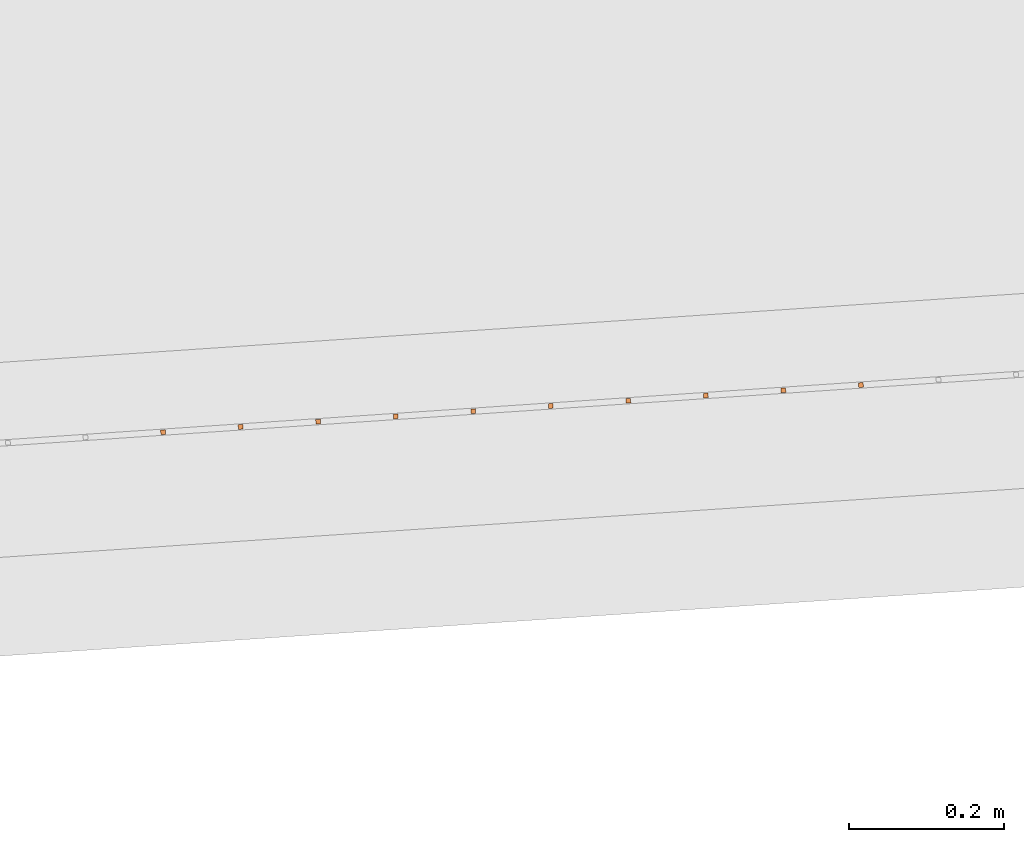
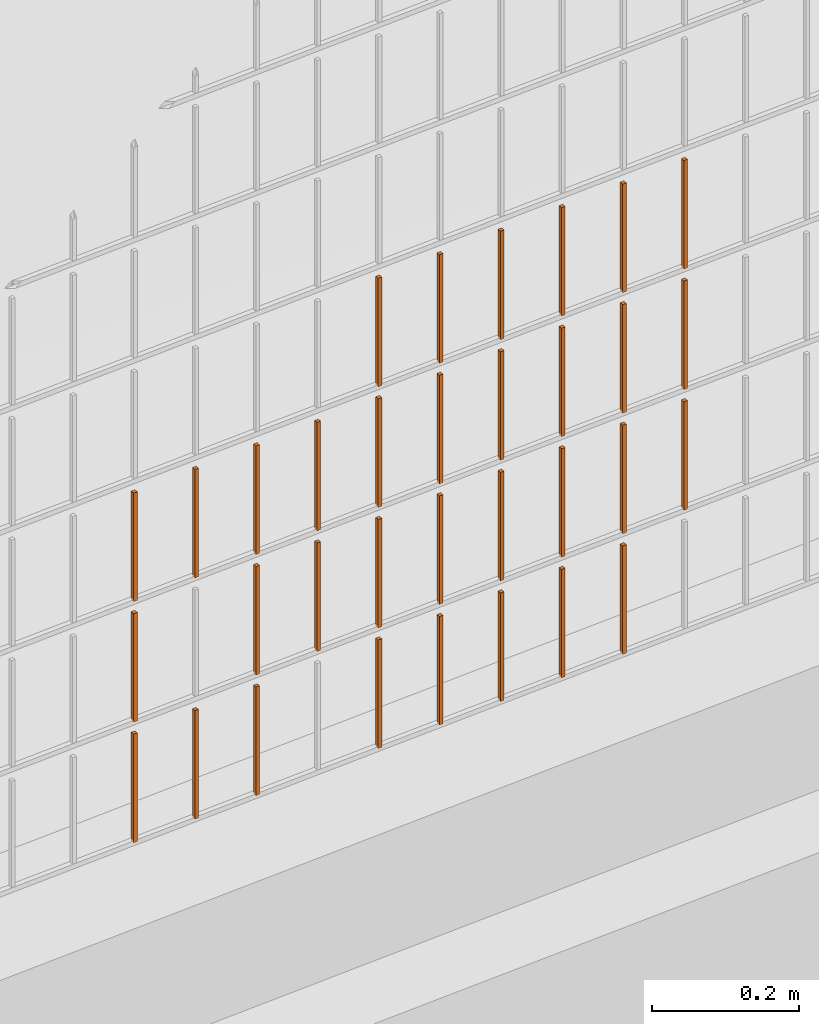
# One storey, part 369 of 1809: 33 proxies, 1 element without a shape of its own.
"""IFC2X3 building model written with IfcOpenShell, lengths in millimetres."""

from ifc_helpers import new_model, entity, si_unit, converted_unit, derived_unit, money_unit, direction, frame, origin_with_axes, place, context, subcontext, project, spatial, faceted_brep, source, transform, mapped, material, type_object, element, aggregate, save


model = new_model("IFC2X3")

# Units and contexts
model_context = context("Model", 3, precision=0.01, world=origin_with_axes(), true_north=direction((0.0, 1.0)))
body_context = subcontext(model_context, "Body", "Model", "MODEL_VIEW")
ifc_project = project(units=[si_unit("LENGTHUNIT", "METRE", prefix="MILLI"), si_unit("AREAUNIT", "SQUARE_METRE"), si_unit("VOLUMEUNIT", "CUBIC_METRE"), converted_unit("PLANEANGLEUNIT", "DEGREE", entity("IfcPlaneAngleMeasure", 0.0174532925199), si_unit("PLANEANGLEUNIT", "RADIAN"), dimensions=[0, 0, 0, 0, 0, 0, 0]), si_unit("SOLIDANGLEUNIT", "STERADIAN"), money_unit("EUR"), converted_unit("TIMEUNIT", "Year", entity("IfcTimeMeasure", 31556926.0), si_unit("TIMEUNIT", "SECOND"), dimensions=[0, 0, 1, 0, 0, 0, 0]), si_unit("MASSUNIT", "GRAM", prefix="KILO"), si_unit("THERMODYNAMICTEMPERATUREUNIT", "DEGREE_CELSIUS"), si_unit("LUMINOUSINTENSITYUNIT", "LUMEN"), si_unit("ENERGYUNIT", "JOULE", prefix="MEGA"), derived_unit("THERMALCONDUCTANCEUNIT", [(si_unit("POWERUNIT", "WATT"), 1), (si_unit("LENGTHUNIT", "METRE"), -1), (si_unit("THERMODYNAMICTEMPERATUREUNIT", "KELVIN"), -1)]), derived_unit("SPECIFICHEATCAPACITYUNIT", [(si_unit("ENERGYUNIT", "JOULE"), 1), (si_unit("MASSUNIT", "GRAM", prefix="KILO"), -1), (si_unit("THERMODYNAMICTEMPERATUREUNIT", "KELVIN"), -1)]), derived_unit("MASSDENSITYUNIT", [(si_unit("MASSUNIT", "GRAM", prefix="KILO"), 1), (si_unit("VOLUMEUNIT", "CUBIC_METRE"), -1)])], contexts=[model_context])

# Site, building, storey
site_placement = place(None, origin_with_axes())
site = spatial("IfcSite", under=ifc_project, at=site_placement, Name="Politse- ja Piirivalveameti ning Päästeameti ühishoone", CompositionType="ELEMENT")
building_placement = place(site_placement, origin_with_axes())
building = spatial("IfcBuilding", under=site, at=building_placement, Name="Politse- ja Piirivalveameti ning Päästeameti ühishoone", CompositionType="ELEMENT")
storey_placement = place(building_placement, origin_with_axes())
storey = spatial("IfcBuildingStorey", under=building, at=storey_placement, Name="Esimene korrus", CompositionType="ELEMENT", Elevation=0.0)

# Proxies
building_element_proxy_type_1 = type_object("IfcBuildingElementProxyType", Name="Railing Type", PredefinedType="NOTDEFINED")
proxy_1_placement = place(storey_placement, frame((89252.001212, -29183.4766571, 203.661247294), z_axis=(0.0, 0.0, 1.0), x_axis=(1.0, 0.0, 0.0)))
proxy_1 = element("IfcBuildingElementProxy", 1, at=proxy_1_placement, inside=storey, type_object=building_element_proxy_type_1, Name="PIIRDEAED")
ifc_material = material(Name="ET-03_Raud")
building_element_proxy_type_2 = type_object("IfcBuildingElementProxyType", Name="IfcBuildingElementProxy", PredefinedType="NOTDEFINED")
shared_shape_1 = source(origin_with_axes(), body_context, "Body", "Brep", [
    faceted_brep([(3.0, 3.0, -0.000752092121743), (-3.0, 3.0, -0.000752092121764), (-3.0, 3.0, 179.99926046), (3.0, 3.0, 179.99926046), (3.0, -3.0, 0.000752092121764), (-3.0, -3.0, 0.000752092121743), (-3.0, -3.0, 180.000764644), (3.0, -3.0, 180.000764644)], [[[0, 1, 2, 3]], [[0, 4, 5, 1]], [[1, 5, 6, 2]], [[3, 2, 6, 7]], [[4, 0, 3, 7]], [[5, 4, 7, 6]]]),
])
proxy_2_placement = place(proxy_1_placement, frame((-20380.2485119, -18674.3836363, 22.1134684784), z_axis=(0.0, 0.0, 1.0), x_axis=(1.0, 0.0, 0.0)))
proxy_2 = element("IfcBuildingElementProxy", 2, at=proxy_2_placement, type_object=building_element_proxy_type_2, material=ifc_material, Name="BALUSTER - 001", context=body_context, shape_type="MappedRepresentation", body=[
    mapped(shared_shape_1, transform((0.0, 0.0, 0.0), x_axis=(-0.0673926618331, 0.997726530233, 0.0), y_axis=(-0.997726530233, -0.0673926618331, 0.0), z_axis=(0.0, 0.0, 1.0))),
])
shared_shape_2 = source(origin_with_axes(), body_context, "Body", "Brep", [
    faceted_brep([(3.0, 3.0, -0.000752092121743), (-3.0, 3.0, -0.000752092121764), (-3.0, 3.0, 179.99926046), (3.0, 3.0, 179.99926046), (3.0, -3.0, 0.000752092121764), (-3.0, -3.0, 0.000752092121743), (-3.0, -3.0, 180.000764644), (3.0, -3.0, 180.000764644)], [[[0, 1, 2, 3]], [[0, 4, 5, 1]], [[1, 5, 6, 2]], [[3, 2, 6, 7]], [[4, 0, 3, 7]], [[5, 4, 7, 6]]]),
])
proxy_3_placement = place(proxy_1_placement, frame((-20380.2485119, -18674.3836363, 222.113468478), z_axis=(0.0, 0.0, 1.0), x_axis=(1.0, 0.0, 0.0)))
proxy_3 = element("IfcBuildingElementProxy", 3, at=proxy_3_placement, type_object=building_element_proxy_type_2, material=ifc_material, Name="BALUSTER - 001", context=body_context, shape_type="MappedRepresentation", body=[
    mapped(shared_shape_2, transform((0.0, 0.0, 0.0), x_axis=(-0.0673926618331, 0.997726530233, 0.0), y_axis=(-0.997726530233, -0.0673926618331, 0.0), z_axis=(0.0, 0.0, 1.0))),
])
shared_shape_3 = source(origin_with_axes(), body_context, "Body", "Brep", [
    faceted_brep([(3.0, 3.0, -0.000752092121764), (-3.0, 3.0, -0.000752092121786), (-3.0, 3.0, 179.99926046), (3.0, 3.0, 179.99926046), (3.0, -3.0, 0.000752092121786), (-3.0, -3.0, 0.000752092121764), (-3.0, -3.0, 180.000764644), (3.0, -3.0, 180.000764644)], [[[0, 1, 2, 3]], [[0, 4, 5, 1]], [[1, 5, 6, 2]], [[3, 2, 6, 7]], [[4, 0, 3, 7]], [[5, 4, 7, 6]]]),
])
proxy_4_placement = place(proxy_1_placement, frame((-20978.8844301, -18714.8192334, 21.9630500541), z_axis=(0.0, 0.0, 1.0), x_axis=(1.0, 0.0, 0.0)))
proxy_4 = element("IfcBuildingElementProxy", 4, at=proxy_4_placement, type_object=building_element_proxy_type_2, material=ifc_material, Name="BALUSTER - 001", context=body_context, shape_type="MappedRepresentation", body=[
    mapped(shared_shape_3, transform((0.0, 0.0, 0.0), x_axis=(-0.0673926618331, 0.997726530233, 0.0), y_axis=(-0.997726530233, -0.0673926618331, 0.0), z_axis=(0.0, 0.0, 1.0))),
])
shared_shape_4 = source(origin_with_axes(), body_context, "Body", "Brep", [
    faceted_brep([(3.0, 3.0, -0.000752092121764), (-3.0, 3.0, -0.000752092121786), (-3.0, 3.0, 179.99926046), (3.0, 3.0, 179.99926046), (3.0, -3.0, 0.000752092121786), (-3.0, -3.0, 0.000752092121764), (-3.0, -3.0, 180.000764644), (3.0, -3.0, 180.000764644)], [[[0, 1, 2, 3]], [[0, 4, 5, 1]], [[1, 5, 6, 2]], [[3, 2, 6, 7]], [[4, 0, 3, 7]], [[5, 4, 7, 6]]]),
])
proxy_5_placement = place(proxy_1_placement, frame((-20879.1117771, -18708.0799672, 21.9881197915), z_axis=(0.0, 0.0, 1.0), x_axis=(1.0, 0.0, 0.0)))
proxy_5 = element("IfcBuildingElementProxy", 5, at=proxy_5_placement, type_object=building_element_proxy_type_2, material=ifc_material, Name="BALUSTER - 001", context=body_context, shape_type="MappedRepresentation", body=[
    mapped(shared_shape_4, transform((0.0, 0.0, 0.0), x_axis=(-0.0673926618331, 0.997726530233, 0.0), y_axis=(-0.997726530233, -0.0673926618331, 0.0), z_axis=(0.0, 0.0, 1.0))),
])
shared_shape_5 = source(origin_with_axes(), body_context, "Body", "Brep", [
    faceted_brep([(3.0, 3.0, -0.000752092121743), (-3.0, 3.0, -0.000752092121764), (-3.0, 3.0, 179.99926046), (3.0, 3.0, 179.99926046), (3.0, -3.0, 0.000752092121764), (-3.0, -3.0, 0.000752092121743), (-3.0, -3.0, 180.000764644), (3.0, -3.0, 180.000764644)], [[[0, 1, 2, 3]], [[0, 4, 5, 1]], [[1, 5, 6, 2]], [[3, 2, 6, 7]], [[4, 0, 3, 7]], [[5, 4, 7, 6]]]),
])
proxy_6_placement = place(proxy_1_placement, frame((-20380.2485119, -18674.3836363, 422.113468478), z_axis=(0.0, 0.0, 1.0), x_axis=(1.0, 0.0, 0.0)))
proxy_6 = element("IfcBuildingElementProxy", 6, at=proxy_6_placement, type_object=building_element_proxy_type_2, material=ifc_material, Name="BALUSTER - 001", context=body_context, shape_type="MappedRepresentation", body=[
    mapped(shared_shape_5, transform((0.0, 0.0, 0.0), x_axis=(-0.0673926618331, 0.997726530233, 0.0), y_axis=(-0.997726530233, -0.0673926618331, 0.0), z_axis=(0.0, 0.0, 1.0))),
])
shared_shape_6 = source(origin_with_axes(), body_context, "Body", "Brep", [
    faceted_brep([(3.0, 3.0, -0.000752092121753), (-3.0, 3.0, -0.000752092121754), (-3.0, 3.0, 179.99926046), (3.0, 3.0, 179.99926046), (3.0, -3.0, 0.000752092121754), (-3.0, -3.0, 0.000752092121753), (-3.0, -3.0, 180.000764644), (3.0, -3.0, 180.000764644)], [[[0, 1, 2, 3]], [[0, 4, 5, 1]], [[1, 5, 6, 2]], [[3, 2, 6, 7]], [[4, 0, 3, 7]], [[5, 4, 7, 6]]]),
])
proxy_7_placement = place(proxy_1_placement, frame((-20180.7032059, -18660.9051039, 222.163607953), z_axis=(0.0, 0.0, 1.0), x_axis=(1.0, 0.0, 0.0)))
proxy_7 = element("IfcBuildingElementProxy", 7, at=proxy_7_placement, type_object=building_element_proxy_type_2, material=ifc_material, Name="BALUSTER - 001", context=body_context, shape_type="MappedRepresentation", body=[
    mapped(shared_shape_6, transform((0.0, 0.0, 0.0), x_axis=(-0.0673926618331, 0.997726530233, 0.0), y_axis=(-0.997726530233, -0.0673926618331, 0.0), z_axis=(0.0, 0.0, 1.0))),
])
proxy_8_placement = place(proxy_1_placement, frame((-20180.7032059, -18660.9051039, 622.163607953), z_axis=(0.0, 0.0, 1.0), x_axis=(1.0, 0.0, 0.0)))
proxy_8 = element("IfcBuildingElementProxy", 8, at=proxy_8_placement, type_object=building_element_proxy_type_2, material=ifc_material, Name="BALUSTER - 001", context=body_context, shape_type="MappedRepresentation", body=[
    mapped(shared_shape_6, transform((0.0, 0.0, 0.0), x_axis=(-0.0673926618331, 0.997726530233, 0.0), y_axis=(-0.997726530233, -0.0673926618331, 0.0), z_axis=(0.0, 0.0, 1.0))),
])
shared_shape_7 = source(origin_with_axes(), body_context, "Body", "Brep", [
    faceted_brep([(3.0, 3.0, -0.000752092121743), (-3.0, 3.0, -0.000752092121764), (-3.0, 3.0, 179.99926046), (3.0, 3.0, 179.99926046), (3.0, -3.0, 0.000752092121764), (-3.0, -3.0, 0.000752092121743), (-3.0, -3.0, 180.000764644), (3.0, -3.0, 180.000764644)], [[[0, 1, 2, 3]], [[0, 4, 5, 1]], [[1, 5, 6, 2]], [[3, 2, 6, 7]], [[4, 0, 3, 7]], [[5, 4, 7, 6]]]),
])
proxy_9_placement = place(proxy_1_placement, frame((-20280.4758589, -18667.6443701, 222.138538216), z_axis=(0.0, 0.0, 1.0), x_axis=(1.0, 0.0, 0.0)))
proxy_9 = element("IfcBuildingElementProxy", 9, at=proxy_9_placement, type_object=building_element_proxy_type_2, material=ifc_material, Name="BALUSTER - 001", context=body_context, shape_type="MappedRepresentation", body=[
    mapped(shared_shape_7, transform((0.0, 0.0, 0.0), x_axis=(-0.0673926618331, 0.997726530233, 0.0), y_axis=(-0.997726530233, -0.0673926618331, 0.0), z_axis=(0.0, 0.0, 1.0))),
])
shared_shape_8 = source(origin_with_axes(), body_context, "Body", "Brep", [
    faceted_brep([(3.0, 3.0, -0.000752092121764), (-3.0, 3.0, -0.000752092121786), (-3.0, 3.0, 179.99926046), (3.0, 3.0, 179.99926046), (3.0, -3.0, 0.000752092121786), (-3.0, -3.0, 0.000752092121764), (-3.0, -3.0, 180.000764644), (3.0, -3.0, 180.000764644)], [[[0, 1, 2, 3]], [[0, 4, 5, 1]], [[1, 5, 6, 2]], [[3, 2, 6, 7]], [[4, 0, 3, 7]], [[5, 4, 7, 6]]]),
])
proxy_10_placement = place(proxy_1_placement, frame((-21078.6570831, -18721.5584996, 421.937980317), z_axis=(0.0, 0.0, 1.0), x_axis=(1.0, 0.0, 0.0)))
proxy_10 = element("IfcBuildingElementProxy", 10, at=proxy_10_placement, type_object=building_element_proxy_type_2, material=ifc_material, Name="BALUSTER - 001", context=body_context, shape_type="MappedRepresentation", body=[
    mapped(shared_shape_8, transform((0.0, 0.0, 0.0), x_axis=(-0.0673926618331, 0.997726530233, 0.0), y_axis=(-0.997726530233, -0.0673926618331, 0.0), z_axis=(0.0, 0.0, 1.0))),
])
shared_shape_9 = source(origin_with_axes(), body_context, "Body", "Brep", [
    faceted_brep([(3.0, 3.0, -0.000752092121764), (-3.0, 3.0, -0.000752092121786), (-3.0, 3.0, 179.99926046), (3.0, 3.0, 179.99926046), (3.0, -3.0, 0.000752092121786), (-3.0, -3.0, 0.000752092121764), (-3.0, -3.0, 180.000764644), (3.0, -3.0, 180.000764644)], [[[0, 1, 2, 3]], [[0, 4, 5, 1]], [[1, 5, 6, 2]], [[3, 2, 6, 7]], [[4, 0, 3, 7]], [[5, 4, 7, 6]]]),
])
proxy_11_placement = place(proxy_1_placement, frame((-20879.1117771, -18708.0799672, 221.988119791), z_axis=(0.0, 0.0, 1.0), x_axis=(1.0, 0.0, 0.0)))
proxy_11 = element("IfcBuildingElementProxy", 11, at=proxy_11_placement, type_object=building_element_proxy_type_2, material=ifc_material, Name="BALUSTER - 001", context=body_context, shape_type="MappedRepresentation", body=[
    mapped(shared_shape_9, transform((0.0, 0.0, 0.0), x_axis=(-0.0673926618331, 0.997726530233, 0.0), y_axis=(-0.997726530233, -0.0673926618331, 0.0), z_axis=(0.0, 0.0, 1.0))),
])
shared_shape_10 = source(origin_with_axes(), body_context, "Body", "Brep", [
    faceted_brep([(3.0, 3.0, -0.000752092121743), (-3.0, 3.0, -0.000752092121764), (-3.0, 3.0, 179.99926046), (3.0, 3.0, 179.99926046), (3.0, -3.0, 0.000752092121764), (-3.0, -3.0, 0.000752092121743), (-3.0, -3.0, 180.000764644), (3.0, -3.0, 180.000764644)], [[[0, 1, 2, 3]], [[0, 4, 5, 1]], [[1, 5, 6, 2]], [[3, 2, 6, 7]], [[4, 0, 3, 7]], [[5, 4, 7, 6]]]),
])
proxy_12_placement = place(proxy_1_placement, frame((-20280.4758589, -18667.6443701, 422.138538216), z_axis=(0.0, 0.0, 1.0), x_axis=(1.0, 0.0, 0.0)))
proxy_12 = element("IfcBuildingElementProxy", 12, at=proxy_12_placement, type_object=building_element_proxy_type_2, material=ifc_material, Name="BALUSTER - 001", context=body_context, shape_type="MappedRepresentation", body=[
    mapped(shared_shape_10, transform((0.0, 0.0, 0.0), x_axis=(-0.0673926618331, 0.997726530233, 0.0), y_axis=(-0.997726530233, -0.0673926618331, 0.0), z_axis=(0.0, 0.0, 1.0))),
])
shared_shape_11 = source(origin_with_axes(), body_context, "Body", "Brep", [
    faceted_brep([(3.0, 3.0, -0.000752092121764), (-3.0, 3.0, -0.000752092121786), (-3.0, 3.0, 179.99926046), (3.0, 3.0, 179.99926046), (3.0, -3.0, 0.000752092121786), (-3.0, -3.0, 0.000752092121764), (-3.0, -3.0, 180.000764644), (3.0, -3.0, 180.000764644)], [[[0, 1, 2, 3]], [[0, 4, 5, 1]], [[1, 5, 6, 2]], [[3, 2, 6, 7]], [[4, 0, 3, 7]], [[5, 4, 7, 6]]]),
])
proxy_13_placement = place(proxy_1_placement, frame((-20879.1117771, -18708.0799672, 421.988119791), z_axis=(0.0, 0.0, 1.0), x_axis=(1.0, 0.0, 0.0)))
proxy_13 = element("IfcBuildingElementProxy", 13, at=proxy_13_placement, type_object=building_element_proxy_type_2, material=ifc_material, Name="BALUSTER - 001", context=body_context, shape_type="MappedRepresentation", body=[
    mapped(shared_shape_11, transform((0.0, 0.0, 0.0), x_axis=(-0.0673926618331, 0.997726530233, 0.0), y_axis=(-0.997726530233, -0.0673926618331, 0.0), z_axis=(0.0, 0.0, 1.0))),
])
shared_shape_12 = source(origin_with_axes(), body_context, "Body", "Brep", [
    faceted_brep([(3.0, 3.0, -0.000752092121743), (-3.0, 3.0, -0.000752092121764), (-3.0, 3.0, 179.99926046), (3.0, 3.0, 179.99926046), (3.0, -3.0, 0.000752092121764), (-3.0, -3.0, 0.000752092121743), (-3.0, -3.0, 180.000764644), (3.0, -3.0, 180.000764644)], [[[0, 1, 2, 3]], [[0, 4, 5, 1]], [[1, 5, 6, 2]], [[3, 2, 6, 7]], [[4, 0, 3, 7]], [[5, 4, 7, 6]]]),
])
proxy_14_placement = place(proxy_1_placement, frame((-20280.4758589, -18667.6443701, 622.138538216), z_axis=(0.0, 0.0, 1.0), x_axis=(1.0, 0.0, 0.0)))
proxy_14 = element("IfcBuildingElementProxy", 14, at=proxy_14_placement, type_object=building_element_proxy_type_2, material=ifc_material, Name="BALUSTER - 001", context=body_context, shape_type="MappedRepresentation", body=[
    mapped(shared_shape_12, transform((0.0, 0.0, 0.0), x_axis=(-0.0673926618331, 0.997726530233, 0.0), y_axis=(-0.997726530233, -0.0673926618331, 0.0), z_axis=(0.0, 0.0, 1.0))),
])
shared_shape_13 = source(origin_with_axes(), body_context, "Body", "Brep", [
    faceted_brep([(3.0, 3.0, -0.000752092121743), (-3.0, 3.0, -0.000752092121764), (-3.0, 3.0, 179.99926046), (3.0, 3.0, 179.99926046), (3.0, -3.0, 0.000752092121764), (-3.0, -3.0, 0.000752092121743), (-3.0, -3.0, 180.000764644), (3.0, -3.0, 180.000764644)], [[[0, 1, 2, 3]], [[0, 4, 5, 1]], [[1, 5, 6, 2]], [[3, 2, 6, 7]], [[4, 0, 3, 7]], [[5, 4, 7, 6]]]),
])
proxy_15_placement = place(proxy_1_placement, frame((-20380.2485119, -18674.3836363, 622.113468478), z_axis=(0.0, 0.0, 1.0), x_axis=(1.0, 0.0, 0.0)))
proxy_15 = element("IfcBuildingElementProxy", 15, at=proxy_15_placement, type_object=building_element_proxy_type_2, material=ifc_material, Name="BALUSTER - 001", context=body_context, shape_type="MappedRepresentation", body=[
    mapped(shared_shape_13, transform((0.0, 0.0, 0.0), x_axis=(-0.0673926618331, 0.997726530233, 0.0), y_axis=(-0.997726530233, -0.0673926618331, 0.0), z_axis=(0.0, 0.0, 1.0))),
])
shared_shape_14 = source(origin_with_axes(), body_context, "Body", "Brep", [
    faceted_brep([(3.0, 3.0, -0.000752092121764), (-3.0, 3.0, -0.000752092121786), (-3.0, 3.0, 179.99926046), (3.0, 3.0, 179.99926046), (3.0, -3.0, 0.000752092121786), (-3.0, -3.0, 0.000752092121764), (-3.0, -3.0, 180.000764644), (3.0, -3.0, 180.000764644)], [[[0, 1, 2, 3]], [[0, 4, 5, 1]], [[1, 5, 6, 2]], [[3, 2, 6, 7]], [[4, 0, 3, 7]], [[5, 4, 7, 6]]]),
])
proxy_16_placement = place(proxy_1_placement, frame((-20978.8844301, -18714.8192334, 421.963050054), z_axis=(0.0, 0.0, 1.0), x_axis=(1.0, 0.0, 0.0)))
proxy_16 = element("IfcBuildingElementProxy", 16, at=proxy_16_placement, type_object=building_element_proxy_type_2, material=ifc_material, Name="BALUSTER - 001", context=body_context, shape_type="MappedRepresentation", body=[
    mapped(shared_shape_14, transform((0.0, 0.0, 0.0), x_axis=(-0.0673926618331, 0.997726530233, 0.0), y_axis=(-0.997726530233, -0.0673926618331, 0.0), z_axis=(0.0, 0.0, 1.0))),
])
shared_shape_15 = source(origin_with_axes(), body_context, "Body", "Brep", [
    faceted_brep([(3.0, 3.0, -0.000752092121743), (-3.0, 3.0, -0.000752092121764), (-3.0, 3.0, 179.99926046), (3.0, 3.0, 179.99926046), (3.0, -3.0, 0.000752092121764), (-3.0, -3.0, 0.000752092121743), (-3.0, -3.0, 180.000764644), (3.0, -3.0, 180.000764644)], [[[0, 1, 2, 3]], [[0, 4, 5, 1]], [[1, 5, 6, 2]], [[3, 2, 6, 7]], [[4, 0, 3, 7]], [[5, 4, 7, 6]]]),
])
proxy_17_placement = place(proxy_1_placement, frame((-20480.021165, -18681.1229025, 422.088398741), z_axis=(0.0, 0.0, 1.0), x_axis=(1.0, 0.0, 0.0)))
proxy_17 = element("IfcBuildingElementProxy", 17, at=proxy_17_placement, type_object=building_element_proxy_type_2, material=ifc_material, Name="BALUSTER - 001", context=body_context, shape_type="MappedRepresentation", body=[
    mapped(shared_shape_15, transform((0.0, 0.0, 0.0), x_axis=(-0.0673926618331, 0.997726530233, 0.0), y_axis=(-0.997726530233, -0.0673926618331, 0.0), z_axis=(0.0, 0.0, 1.0))),
])
shared_shape_16 = source(origin_with_axes(), body_context, "Body", "Brep", [
    faceted_brep([(3.0, 3.0, -0.000752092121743), (-3.0, 3.0, -0.000752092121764), (-3.0, 3.0, 179.99926046), (3.0, 3.0, 179.99926046), (3.0, -3.0, 0.000752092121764), (-3.0, -3.0, 0.000752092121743), (-3.0, -3.0, 180.000764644), (3.0, -3.0, 180.000764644)], [[[0, 1, 2, 3]], [[0, 4, 5, 1]], [[1, 5, 6, 2]], [[3, 2, 6, 7]], [[4, 0, 3, 7]], [[5, 4, 7, 6]]]),
])
proxy_18_placement = place(proxy_1_placement, frame((-20480.021165, -18681.1229025, 622.088398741), z_axis=(0.0, 0.0, 1.0), x_axis=(1.0, 0.0, 0.0)))
proxy_18 = element("IfcBuildingElementProxy", 18, at=proxy_18_placement, type_object=building_element_proxy_type_2, material=ifc_material, Name="BALUSTER - 001", context=body_context, shape_type="MappedRepresentation", body=[
    mapped(shared_shape_16, transform((0.0, 0.0, 0.0), x_axis=(-0.0673926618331, 0.997726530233, 0.0), y_axis=(-0.997726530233, -0.0673926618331, 0.0), z_axis=(0.0, 0.0, 1.0))),
])
shared_shape_17 = source(origin_with_axes(), body_context, "Body", "Brep", [
    faceted_brep([(3.0, 3.0, -0.000752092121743), (-3.0, 3.0, -0.000752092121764), (-3.0, 3.0, 179.99926046), (3.0, 3.0, 179.99926046), (3.0, -3.0, 0.000752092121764), (-3.0, -3.0, 0.000752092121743), (-3.0, -3.0, 180.000764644), (3.0, -3.0, 180.000764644)], [[[0, 1, 2, 3]], [[0, 4, 5, 1]], [[1, 5, 6, 2]], [[3, 2, 6, 7]], [[4, 0, 3, 7]], [[5, 4, 7, 6]]]),
])
proxy_19_placement = place(proxy_1_placement, frame((-20480.021165, -18681.1229025, 22.088398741), z_axis=(0.0, 0.0, 1.0), x_axis=(1.0, 0.0, 0.0)))
proxy_19 = element("IfcBuildingElementProxy", 19, at=proxy_19_placement, type_object=building_element_proxy_type_2, material=ifc_material, Name="BALUSTER - 001", context=body_context, shape_type="MappedRepresentation", body=[
    mapped(shared_shape_17, transform((0.0, 0.0, 0.0), x_axis=(-0.0673926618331, 0.997726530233, 0.0), y_axis=(-0.997726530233, -0.0673926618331, 0.0), z_axis=(0.0, 0.0, 1.0))),
])
proxy_20_placement = place(proxy_1_placement, frame((-20480.021165, -18681.1229025, 222.088398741), z_axis=(0.0, 0.0, 1.0), x_axis=(1.0, 0.0, 0.0)))
proxy_20 = element("IfcBuildingElementProxy", 20, at=proxy_20_placement, type_object=building_element_proxy_type_2, material=ifc_material, Name="BALUSTER - 001", context=body_context, shape_type="MappedRepresentation", body=[
    mapped(shared_shape_17, transform((0.0, 0.0, 0.0), x_axis=(-0.0673926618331, 0.997726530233, 0.0), y_axis=(-0.997726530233, -0.0673926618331, 0.0), z_axis=(0.0, 0.0, 1.0))),
])
shared_shape_18 = source(origin_with_axes(), body_context, "Body", "Brep", [
    faceted_brep([(3.0, 3.0, -0.000752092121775), (-3.0, 3.0, -0.000752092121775), (-3.0, 3.0, 179.99926046), (3.0, 3.0, 179.99926046), (3.0, -3.0, 0.000752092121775), (-3.0, -3.0, 0.000752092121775), (-3.0, -3.0, 180.000764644), (3.0, -3.0, 180.000764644)], [[[0, 1, 2, 3]], [[0, 4, 5, 1]], [[1, 5, 6, 2]], [[3, 2, 6, 7]], [[4, 0, 3, 7]], [[5, 4, 7, 6]]]),
])
proxy_21_placement = place(proxy_1_placement, frame((-20679.566471, -18694.6014349, 22.0382592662), z_axis=(0.0, 0.0, 1.0), x_axis=(1.0, 0.0, 0.0)))
proxy_21 = element("IfcBuildingElementProxy", 21, at=proxy_21_placement, type_object=building_element_proxy_type_2, material=ifc_material, Name="BALUSTER - 001", context=body_context, shape_type="MappedRepresentation", body=[
    mapped(shared_shape_18, transform((0.0, 0.0, 0.0), x_axis=(-0.0673926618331, 0.997726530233, 0.0), y_axis=(-0.997726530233, -0.0673926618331, 0.0), z_axis=(0.0, 0.0, 1.0))),
])
shared_shape_19 = source(origin_with_axes(), body_context, "Body", "Brep", [
    faceted_brep([(3.0, 3.0, -0.000752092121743), (-3.0, 3.0, -0.000752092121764), (-3.0, 3.0, 179.99926046), (3.0, 3.0, 179.99926046), (3.0, -3.0, 0.000752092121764), (-3.0, -3.0, 0.000752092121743), (-3.0, -3.0, 180.000764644), (3.0, -3.0, 180.000764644)], [[[0, 1, 2, 3]], [[0, 4, 5, 1]], [[1, 5, 6, 2]], [[3, 2, 6, 7]], [[4, 0, 3, 7]], [[5, 4, 7, 6]]]),
])
proxy_22_placement = place(proxy_1_placement, frame((-20280.4758589, -18667.6443701, 22.1385382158), z_axis=(0.0, 0.0, 1.0), x_axis=(1.0, 0.0, 0.0)))
proxy_22 = element("IfcBuildingElementProxy", 22, at=proxy_22_placement, type_object=building_element_proxy_type_2, material=ifc_material, Name="BALUSTER - 001", context=body_context, shape_type="MappedRepresentation", body=[
    mapped(shared_shape_19, transform((0.0, 0.0, 0.0), x_axis=(-0.0673926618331, 0.997726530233, 0.0), y_axis=(-0.997726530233, -0.0673926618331, 0.0), z_axis=(0.0, 0.0, 1.0))),
])
shared_shape_20 = source(origin_with_axes(), body_context, "Body", "Brep", [
    faceted_brep([(3.0, 3.0, -0.000752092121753), (-3.0, 3.0, -0.000752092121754), (-3.0, 3.0, 179.99926046), (3.0, 3.0, 179.99926046), (3.0, -3.0, 0.000752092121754), (-3.0, -3.0, 0.000752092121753), (-3.0, -3.0, 180.000764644), (3.0, -3.0, 180.000764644)], [[[0, 1, 2, 3]], [[0, 4, 5, 1]], [[1, 5, 6, 2]], [[3, 2, 6, 7]], [[4, 0, 3, 7]], [[5, 4, 7, 6]]]),
])
proxy_23_placement = place(proxy_1_placement, frame((-20180.7032059, -18660.9051039, 422.163607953), z_axis=(0.0, 0.0, 1.0), x_axis=(1.0, 0.0, 0.0)))
proxy_23 = element("IfcBuildingElementProxy", 23, at=proxy_23_placement, type_object=building_element_proxy_type_2, material=ifc_material, Name="BALUSTER - 001", context=body_context, shape_type="MappedRepresentation", body=[
    mapped(shared_shape_20, transform((0.0, 0.0, 0.0), x_axis=(-0.0673926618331, 0.997726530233, 0.0), y_axis=(-0.997726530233, -0.0673926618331, 0.0), z_axis=(0.0, 0.0, 1.0))),
])
shared_shape_21 = source(origin_with_axes(), body_context, "Body", "Brep", [
    faceted_brep([(3.0, 3.0, -0.000752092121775), (-3.0, 3.0, -0.000752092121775), (-3.0, 3.0, 179.99926046), (3.0, 3.0, 179.99926046), (3.0, -3.0, 0.000752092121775), (-3.0, -3.0, 0.000752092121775), (-3.0, -3.0, 180.000764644), (3.0, -3.0, 180.000764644)], [[[0, 1, 2, 3]], [[0, 4, 5, 1]], [[1, 5, 6, 2]], [[3, 2, 6, 7]], [[4, 0, 3, 7]], [[5, 4, 7, 6]]]),
])
proxy_24_placement = place(proxy_1_placement, frame((-20679.566471, -18694.6014349, 222.038259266), z_axis=(0.0, 0.0, 1.0), x_axis=(1.0, 0.0, 0.0)))
proxy_24 = element("IfcBuildingElementProxy", 24, at=proxy_24_placement, type_object=building_element_proxy_type_2, material=ifc_material, Name="BALUSTER - 001", context=body_context, shape_type="MappedRepresentation", body=[
    mapped(shared_shape_21, transform((0.0, 0.0, 0.0), x_axis=(-0.0673926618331, 0.997726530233, 0.0), y_axis=(-0.997726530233, -0.0673926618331, 0.0), z_axis=(0.0, 0.0, 1.0))),
])
shared_shape_22 = source(origin_with_axes(), body_context, "Body", "Brep", [
    faceted_brep([(3.0, 3.0, -0.000752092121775), (-3.0, 3.0, -0.000752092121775), (-3.0, 3.0, 179.99926046), (3.0, 3.0, 179.99926046), (3.0, -3.0, 0.000752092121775), (-3.0, -3.0, 0.000752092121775), (-3.0, -3.0, 180.000764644), (3.0, -3.0, 180.000764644)], [[[0, 1, 2, 3]], [[0, 4, 5, 1]], [[1, 5, 6, 2]], [[3, 2, 6, 7]], [[4, 0, 3, 7]], [[5, 4, 7, 6]]]),
])
proxy_25_placement = place(proxy_1_placement, frame((-20679.566471, -18694.6014349, 422.038259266), z_axis=(0.0, 0.0, 1.0), x_axis=(1.0, 0.0, 0.0)))
proxy_25 = element("IfcBuildingElementProxy", 25, at=proxy_25_placement, type_object=building_element_proxy_type_2, material=ifc_material, Name="BALUSTER - 001", context=body_context, shape_type="MappedRepresentation", body=[
    mapped(shared_shape_22, transform((0.0, 0.0, 0.0), x_axis=(-0.0673926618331, 0.997726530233, 0.0), y_axis=(-0.997726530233, -0.0673926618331, 0.0), z_axis=(0.0, 0.0, 1.0))),
])
shared_shape_23 = source(origin_with_axes(), body_context, "Body", "Brep", [
    faceted_brep([(3.0, 3.0, -0.000752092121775), (-3.0, 3.0, -0.000752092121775), (-3.0, 3.0, 179.99926046), (3.0, 3.0, 179.99926046), (3.0, -3.0, 0.000752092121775), (-3.0, -3.0, 0.000752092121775), (-3.0, -3.0, 180.000764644), (3.0, -3.0, 180.000764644)], [[[0, 1, 2, 3]], [[0, 4, 5, 1]], [[1, 5, 6, 2]], [[3, 2, 6, 7]], [[4, 0, 3, 7]], [[5, 4, 7, 6]]]),
])
proxy_26_placement = place(proxy_1_placement, frame((-20579.793818, -18687.8621687, 22.0633290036), z_axis=(0.0, 0.0, 1.0), x_axis=(1.0, 0.0, 0.0)))
proxy_26 = element("IfcBuildingElementProxy", 26, at=proxy_26_placement, type_object=building_element_proxy_type_2, material=ifc_material, Name="BALUSTER - 001", context=body_context, shape_type="MappedRepresentation", body=[
    mapped(shared_shape_23, transform((0.0, 0.0, 0.0), x_axis=(-0.0673926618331, 0.997726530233, 0.0), y_axis=(-0.997726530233, -0.0673926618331, 0.0), z_axis=(0.0, 0.0, 1.0))),
])
shared_shape_24 = source(origin_with_axes(), body_context, "Body", "Brep", [
    faceted_brep([(3.0, 3.0, -0.000752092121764), (-3.0, 3.0, -0.000752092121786), (-3.0, 3.0, 179.99926046), (3.0, 3.0, 179.99926046), (3.0, -3.0, 0.000752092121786), (-3.0, -3.0, 0.000752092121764), (-3.0, -3.0, 180.000764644), (3.0, -3.0, 180.000764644)], [[[0, 1, 2, 3]], [[0, 4, 5, 1]], [[1, 5, 6, 2]], [[3, 2, 6, 7]], [[4, 0, 3, 7]], [[5, 4, 7, 6]]]),
])
proxy_27_placement = place(proxy_1_placement, frame((-21078.6570831, -18721.5584996, 21.9379803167), z_axis=(0.0, 0.0, 1.0), x_axis=(1.0, 0.0, 0.0)))
proxy_27 = element("IfcBuildingElementProxy", 27, at=proxy_27_placement, type_object=building_element_proxy_type_2, material=ifc_material, Name="BALUSTER - 001", context=body_context, shape_type="MappedRepresentation", body=[
    mapped(shared_shape_24, transform((0.0, 0.0, 0.0), x_axis=(-0.0673926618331, 0.997726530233, 0.0), y_axis=(-0.997726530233, -0.0673926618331, 0.0), z_axis=(0.0, 0.0, 1.0))),
])
proxy_28_placement = place(proxy_1_placement, frame((-21078.6570831, -18721.5584996, 221.937980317), z_axis=(0.0, 0.0, 1.0), x_axis=(1.0, 0.0, 0.0)))
proxy_28 = element("IfcBuildingElementProxy", 28, at=proxy_28_placement, type_object=building_element_proxy_type_2, material=ifc_material, Name="BALUSTER - 001", context=body_context, shape_type="MappedRepresentation", body=[
    mapped(shared_shape_24, transform((0.0, 0.0, 0.0), x_axis=(-0.0673926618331, 0.997726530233, 0.0), y_axis=(-0.997726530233, -0.0673926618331, 0.0), z_axis=(0.0, 0.0, 1.0))),
])
shared_shape_25 = source(origin_with_axes(), body_context, "Body", "Brep", [
    faceted_brep([(3.0, 3.0, -0.000752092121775), (-3.0, 3.0, -0.000752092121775), (-3.0, 3.0, 179.99926046), (3.0, 3.0, 179.99926046), (3.0, -3.0, 0.000752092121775), (-3.0, -3.0, 0.000752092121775), (-3.0, -3.0, 180.000764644), (3.0, -3.0, 180.000764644)], [[[0, 1, 2, 3]], [[0, 4, 5, 1]], [[1, 5, 6, 2]], [[3, 2, 6, 7]], [[4, 0, 3, 7]], [[5, 4, 7, 6]]]),
])
proxy_29_placement = place(proxy_1_placement, frame((-20579.793818, -18687.8621687, 222.063329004), z_axis=(0.0, 0.0, 1.0), x_axis=(1.0, 0.0, 0.0)))
proxy_29 = element("IfcBuildingElementProxy", 29, at=proxy_29_placement, type_object=building_element_proxy_type_2, material=ifc_material, Name="BALUSTER - 001", context=body_context, shape_type="MappedRepresentation", body=[
    mapped(shared_shape_25, transform((0.0, 0.0, 0.0), x_axis=(-0.0673926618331, 0.997726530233, 0.0), y_axis=(-0.997726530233, -0.0673926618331, 0.0), z_axis=(0.0, 0.0, 1.0))),
])
proxy_30_placement = place(proxy_1_placement, frame((-20579.793818, -18687.8621687, 422.063329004), z_axis=(0.0, 0.0, 1.0), x_axis=(1.0, 0.0, 0.0)))
proxy_30 = element("IfcBuildingElementProxy", 30, at=proxy_30_placement, type_object=building_element_proxy_type_2, material=ifc_material, Name="BALUSTER - 001", context=body_context, shape_type="MappedRepresentation", body=[
    mapped(shared_shape_25, transform((0.0, 0.0, 0.0), x_axis=(-0.0673926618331, 0.997726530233, 0.0), y_axis=(-0.997726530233, -0.0673926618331, 0.0), z_axis=(0.0, 0.0, 1.0))),
])
shared_shape_26 = source(origin_with_axes(), body_context, "Body", "Brep", [
    faceted_brep([(3.0, 3.0, -0.000752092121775), (-3.0, 3.0, -0.000752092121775), (-3.0, 3.0, 179.99926046), (3.0, 3.0, 179.99926046), (3.0, -3.0, 0.000752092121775), (-3.0, -3.0, 0.000752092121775), (-3.0, -3.0, 180.000764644), (3.0, -3.0, 180.000764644)], [[[0, 1, 2, 3]], [[0, 4, 5, 1]], [[1, 5, 6, 2]], [[3, 2, 6, 7]], [[4, 0, 3, 7]], [[5, 4, 7, 6]]]),
])
proxy_31_placement = place(proxy_1_placement, frame((-20579.793818, -18687.8621687, 622.063329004), z_axis=(0.0, 0.0, 1.0), x_axis=(1.0, 0.0, 0.0)))
proxy_31 = element("IfcBuildingElementProxy", 31, at=proxy_31_placement, type_object=building_element_proxy_type_2, material=ifc_material, Name="BALUSTER - 001", context=body_context, shape_type="MappedRepresentation", body=[
    mapped(shared_shape_26, transform((0.0, 0.0, 0.0), x_axis=(-0.0673926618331, 0.997726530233, 0.0), y_axis=(-0.997726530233, -0.0673926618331, 0.0), z_axis=(0.0, 0.0, 1.0))),
])
shared_shape_27 = source(origin_with_axes(), body_context, "Body", "Brep", [
    faceted_brep([(3.0, 3.0, -0.000752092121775), (-3.0, 3.0, -0.000752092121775), (-3.0, 3.0, 179.99926046), (3.0, 3.0, 179.99926046), (3.0, -3.0, 0.000752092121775), (-3.0, -3.0, 0.000752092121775), (-3.0, -3.0, 180.000764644), (3.0, -3.0, 180.000764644)], [[[0, 1, 2, 3]], [[0, 4, 5, 1]], [[1, 5, 6, 2]], [[3, 2, 6, 7]], [[4, 0, 3, 7]], [[5, 4, 7, 6]]]),
])
proxy_32_placement = place(proxy_1_placement, frame((-20679.566471, -18694.6014349, 622.038259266), z_axis=(0.0, 0.0, 1.0), x_axis=(1.0, 0.0, 0.0)))
proxy_32 = element("IfcBuildingElementProxy", 32, at=proxy_32_placement, type_object=building_element_proxy_type_2, material=ifc_material, Name="BALUSTER - 001", context=body_context, shape_type="MappedRepresentation", body=[
    mapped(shared_shape_27, transform((0.0, 0.0, 0.0), x_axis=(-0.0673926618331, 0.997726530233, 0.0), y_axis=(-0.997726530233, -0.0673926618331, 0.0), z_axis=(0.0, 0.0, 1.0))),
])
shared_shape_28 = source(origin_with_axes(), body_context, "Body", "Brep", [
    faceted_brep([(3.0, 3.0, -0.000752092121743), (-3.0, 3.0, -0.000752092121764), (-3.0, 3.0, 179.99926046), (3.0, 3.0, 179.99926046), (3.0, -3.0, 0.000752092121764), (-3.0, -3.0, 0.000752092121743), (-3.0, -3.0, 180.000764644), (3.0, -3.0, 180.000764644)], [[[0, 1, 2, 3]], [[0, 4, 5, 1]], [[1, 5, 6, 2]], [[3, 2, 6, 7]], [[4, 0, 3, 7]], [[5, 4, 7, 6]]]),
])
proxy_33_placement = place(proxy_1_placement, frame((-20779.339124, -18701.340701, 222.013189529), z_axis=(0.0, 0.0, 1.0), x_axis=(1.0, 0.0, 0.0)))
proxy_33 = element("IfcBuildingElementProxy", 33, at=proxy_33_placement, type_object=building_element_proxy_type_2, material=ifc_material, Name="BALUSTER - 001", context=body_context, shape_type="MappedRepresentation", body=[
    mapped(shared_shape_28, transform((0.0, 0.0, 0.0), x_axis=(-0.0673926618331, 0.997726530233, 0.0), y_axis=(-0.997726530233, -0.0673926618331, 0.0), z_axis=(0.0, 0.0, 1.0))),
])
proxy_34_placement = place(proxy_1_placement, frame((-20779.339124, -18701.340701, 422.013189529), z_axis=(0.0, 0.0, 1.0), x_axis=(1.0, 0.0, 0.0)))
proxy_34 = element("IfcBuildingElementProxy", 34, at=proxy_34_placement, type_object=building_element_proxy_type_2, material=ifc_material, Name="BALUSTER - 001", context=body_context, shape_type="MappedRepresentation", body=[
    mapped(shared_shape_28, transform((0.0, 0.0, 0.0), x_axis=(-0.0673926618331, 0.997726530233, 0.0), y_axis=(-0.997726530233, -0.0673926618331, 0.0), z_axis=(0.0, 0.0, 1.0))),
])
aggregate(proxy_1, [proxy_22, proxy_2, proxy_19, proxy_26, proxy_21, proxy_5, proxy_4, proxy_27, proxy_7, proxy_9, proxy_3, proxy_20, proxy_29, proxy_24, proxy_33, proxy_11, proxy_28, proxy_23, proxy_12, proxy_6, proxy_17, proxy_30, proxy_25, proxy_34, proxy_13, proxy_16, proxy_10, proxy_8, proxy_14, proxy_15, proxy_18, proxy_31, proxy_32])

save(model, "model.ifc")
